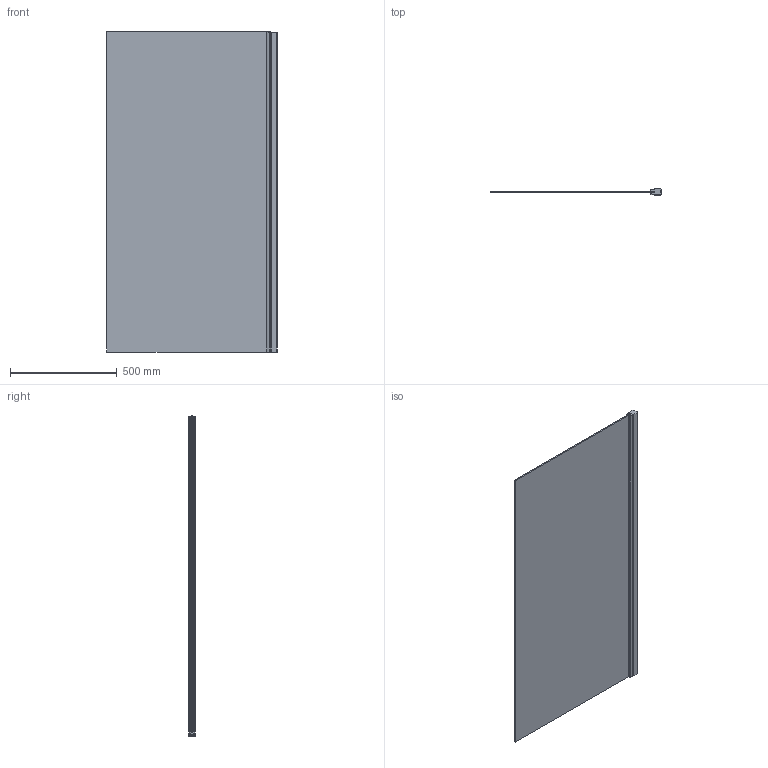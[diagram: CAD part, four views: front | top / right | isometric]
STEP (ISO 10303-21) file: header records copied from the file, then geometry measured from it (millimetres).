
FILE_DESCRIPTION(/* description */ (''),/* implementation_level */ '2;1');
FILE_NAME(/* name */ 'D:\! Работа\22\!\MOLLE PEARL GV-601N левая модель\MOLLE PEARL GV-601N ПРАВАЯ-3D (квадратная без STB).stp',/* time_stamp */ '2022-09-14T19:49:41+03:00',/* author */ ('User'),/* organization */ (''),/* preprocessor_version */ 'ST-DEVELOPER v15.2',/* originating_system */ 'Autodesk Inventor 2014',/* authorisation */ '');
FILE_SCHEMA (('CONFIG_CONTROL_DESIGN'));
Length unit declared in the file: millimetre
Products named in the file (1): MOLLE PEARL GV-601N ЛЕВАЯ-3D_1
Bounding box: 800 x 28.2 x 1501 mm (x, y, z)
Volume: 8682106.5 mm3; surface area: 2484045 mm2
Topology: 1 solids, 1 shells, 51 faces, 141 edges, 94 vertices
Faces by surface type: plane 28, cylinder 23
Entity records: 1734 total; most frequent: DIRECTION 291, CARTESIAN_POINT 287, ORIENTED_EDGE 282, EDGE_CURVE 141, AXIS2_PLACEMENT_3D 98, LINE 95, VECTOR 95, VERTEX_POINT 94
